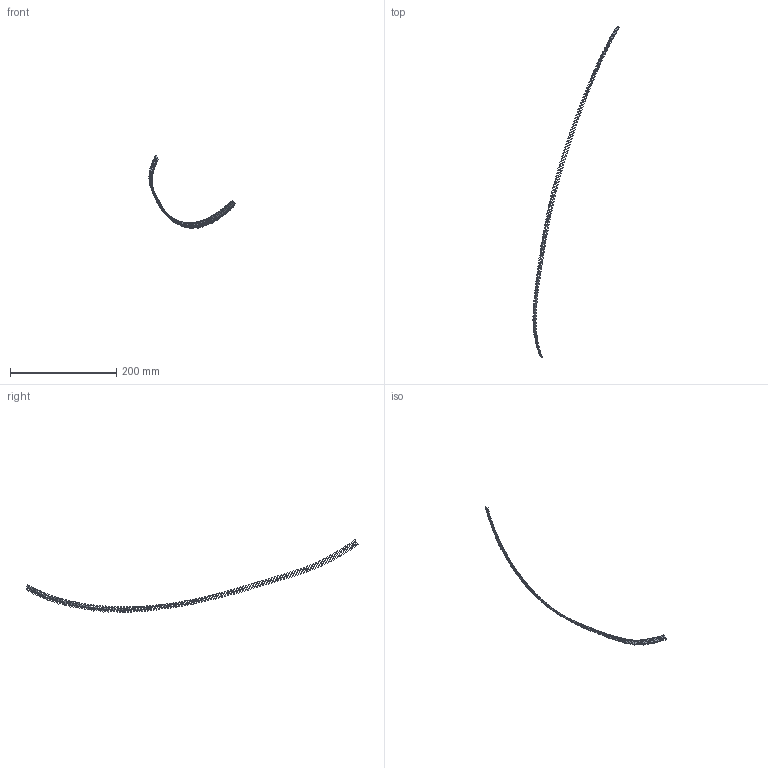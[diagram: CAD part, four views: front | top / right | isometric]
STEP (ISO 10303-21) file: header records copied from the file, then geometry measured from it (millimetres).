
FILE_DESCRIPTION(('FreeCAD Model'),'2;1');
FILE_NAME('Open CASCADE Shape Model','2022-05-22T07:50:12',('FreeCAD'),( 'FreeCAD'),'Open CASCADE STEP processor 7.5','FreeCAD','Unknown');
FILE_SCHEMA(('AUTOMOTIVE_DESIGN { 1 0 10303 214 1 1 1 1 }'));
Length unit declared in the file: millimetre
Products named in the file (224): Open CASCADE STEP translator 7.5 7; Open CASCADE STEP translator 7.5 7.1; Open CASCADE STEP translator 7.5 7.2; Open CASCADE STEP translator 7.5 7.3; Open CASCADE STEP translator 7.5 7.4; Open CASCADE STEP translator 7.5 7.5; Open CASCADE STEP translator 7.5 7.6; Open CASCADE STEP translator 7.5 7.7; Open CASCADE STEP translator 7.5 7.8; Open CASCADE STEP translator 7.5 7.9; Open CASCADE STEP translator 7.5 7.10; Open CASCADE STEP translator 7.5 7.11; Open CASCADE STEP translator 7.5 7.12; Open CASCADE STEP translator 7.5 7.13; Open CASCADE STEP translator 7.5 7.14; Open CASCADE STEP translator 7.5 7.15; Open CASCADE STEP translator 7.5 7.16; Open CASCADE STEP translator 7.5 7.17; Open CASCADE STEP translator 7.5 7.18; Open CASCADE STEP translator 7.5 7.19; Open CASCADE STEP translator 7.5 7.20; Open CASCADE STEP translator 7.5 7.21; Open CASCADE STEP translator 7.5 7.22; Open CASCADE STEP translator 7.5 7.23; Open CASCADE STEP translator 7.5 7.24; Open CASCADE STEP translator 7.5 7.25; Open CASCADE STEP translator 7.5 7.26; Open CASCADE STEP translator 7.5 7.27; Open CASCADE STEP translator 7.5 7.28; Open CASCADE STEP translator 7.5 7.29; Open CASCADE STEP translator 7.5 7.30; Open CASCADE STEP translator 7.5 7.31; Open CASCADE STEP translator 7.5 7.32; Open CASCADE STEP translator 7.5 7.33; Open CASCADE STEP translator 7.5 7.34; Open CASCADE STEP translator 7.5 7.35; Open CASCADE STEP translator 7.5 7.36; Open CASCADE STEP translator 7.5 7.37; Open CASCADE STEP translator 7.5 7.38; Open CASCADE STEP translator 7.5 7.39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
Assembly tree (223 placements, depth 2):
  Open CASCADE STEP translator 7.5 7
    Open CASCADE STEP translator 7.5 7.1
    Open CASCADE STEP translator 7.5 7.2
    Open CASCADE STEP translator 7.5 7.3
    Open CASCADE STEP translator 7.5 7.4
    Open CASCADE STEP translator 7.5 7.5
    Open CASCADE STEP translator 7.5 7.6
    Open CASCADE STEP translator 7.5 7.7
    Open CASCADE STEP translator 7.5 7.8
    Open CASCADE STEP translator 7.5 7.9
    Open CASCADE STEP translator 7.5 7.10
    Open CASCADE STEP translator 7.5 7.11
    Open CASCADE STEP translator 7.5 7.12
    Open CASCADE STEP translator 7.5 7.13
    Open CASCADE STEP translator 7.5 7.14
    Open CASCADE STEP translator 7.5 7.15
    Open CASCADE STEP translator 7.5 7.16
    Open CASCADE STEP translator 7.5 7.17
    Open CASCADE STEP translator 7.5 7.18
    Open CASCADE STEP translator 7.5 7.19
    Open CASCADE STEP translator 7.5 7.20
    Open CASCADE STEP translator 7.5 7.21
    Open CASCADE STEP translator 7.5 7.22
    Open CASCADE STEP translator 7.5 7.23
    Open CASCADE STEP translator 7.5 7.24
    Open CASCADE STEP translator 7.5 7.25
    Open CASCADE STEP translator 7.5 7.26
    Open CASCADE STEP translator 7.5 7.27
    Open CASCADE STEP translator 7.5 7.28
    Open CASCADE STEP translator 7.5 7.29
    Open CASCADE STEP translator 7.5 7.30
    Open CASCADE STEP translator 7.5 7.31
    Open CASCADE STEP translator 7.5 7.32
    Open CASCADE STEP translator 7.5 7.33
    Open CASCADE STEP translator 7.5 7.34
    Open CASCADE STEP translator 7.5 7.35
    Open CASCADE STEP translator 7.5 7.36
    Open CASCADE STEP translator 7.5 7.37
    Open CASCADE STEP translator 7.5 7.38
    Open CASCADE STEP translator 7.5 7.39
    Open CASCADE STEP translator 7.5 7.40
    Open CASCADE STEP translator 7.5 7.41
    Open CASCADE STEP translator 7.5 7.42
    Open CASCADE STEP translator 7.5 7.43
    Open CASCADE STEP translator 7.5 7.44
    Open CASCADE STEP translator 7.5 7.45
    Open CASCADE STEP translator 7.5 7.46
    Open CASCADE STEP translator 7.5 7.47
    Open CASCADE STEP translator 7.5 7.48
    Open CASCADE STEP translator 7.5 7.49
    Open CASCADE STEP translator 7.5 7.50
    Open CASCADE STEP translator 7.5 7.51
    Open CASCADE STEP translator 7.5 7.52
    Open CASCADE STEP translator 7.5 7.53
    Open CASCADE STEP translator 7.5 7.54
    Open CASCADE STEP translator 7.5 7.55
    Open CASCADE STEP translator 7.5 7.56
    Open CASCADE STEP translator 7.5 7.57
    Open CASCADE STEP translator 7.5 7.58
    Open CASCADE STEP translator 7.5 7.59
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Bounding box: 162.92 x 625.79 x 137.21 mm (x, y, z)
Surface area: 6033.4 mm2 (no closed solid volume)
Topology: 0 solids, 223 shells, 223 faces, 2620 edges, 2620 vertices
Faces by surface type: bspline 223
Entity records: 40320 total; most frequent: CARTESIAN_POINT 14216, B_SPLINE_CURVE_WITH_KNOTS 5240, ORIENTED_EDGE 2620, EDGE_CURVE 2620, VERTEX_POINT 2620, SURFACE_CURVE 2620, PCURVE 2620, DEFINITIONAL_REPRESENTATION 2620
